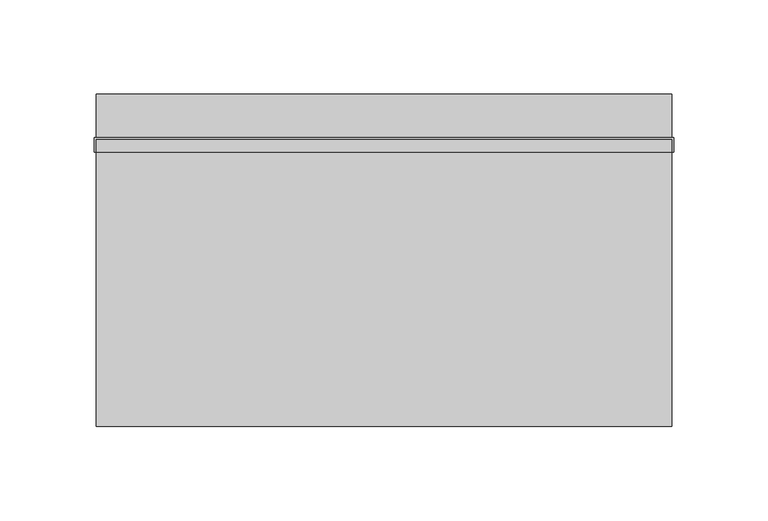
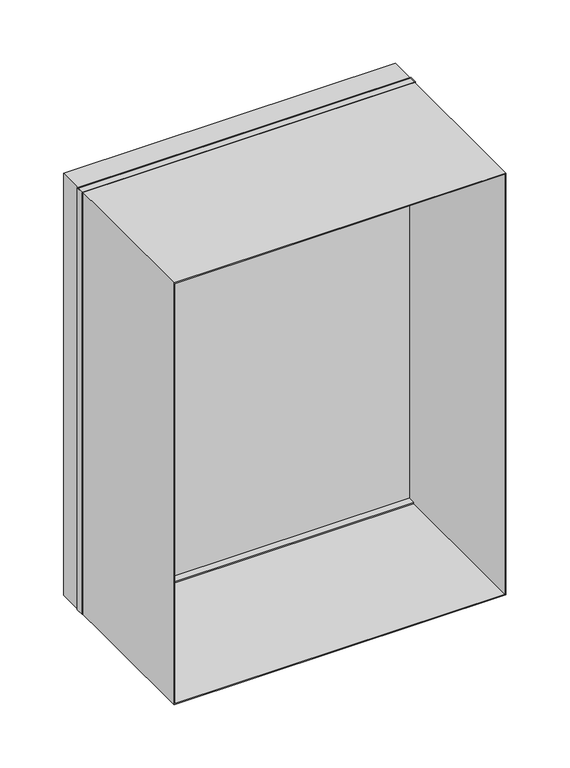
"""IFC4 building model written with IfcOpenShell, lengths in millimetres: proxy geometry, Bard_Controller_LC6000.BIM : Bard_Controller_LC6000_Cooling_Unit."""

from ifc_helpers import new_model, si_unit, frame, origin, place, context, project, spatial, polyline, outline, extrude, source, transform, mapped, element, save


def mechanical_equipment_268e0284(model_context):
    return source(origin(), model_context, "Body", "SweptSolid", [
        extrude(outline(polyline([(152.5, 153.0), (152.5, 146.4203923), (-152.5, 146.4203923), (-152.5, 153.0), (152.5, 153.0)])), frame((0.0, 0.0, 2114.2635926), z_axis=(0.0, 0.0, 1.0), x_axis=(1.0, 0.0, 0.0)), (0.0, 0.0, 1.0), 2.0489992),
        extrude(outline(polyline([(152.5, 153.0), (152.5, 146.4203923), (-152.5, 146.4203923), (-152.5, 153.0), (152.5, 153.0)])), frame((0.0, 0.0, 2520.1655941), z_axis=(0.0, 0.0, 1.0), x_axis=(1.0, 0.0, 0.0)), (0.0, 0.0, 1.0), 4.0979985),
        extrude(outline(polyline([(153.4992086, 153.8963432), (153.4992086, 146.4203923), (152.5, 146.4203923), (152.5, 153.0), (-152.5, 153.0), (-152.5, 146.4203923), (-153.3853087, 146.4203923), (-153.3853087, 153.8963432), (153.4992086, 153.8963432)])), frame((0.0, 0.0, 2114.2635926), z_axis=(0.0, 0.0, 1.0), x_axis=(1.0, 0.0, 0.0)), (0.0, 0.0, 1.0), 410.0),
        extrude(outline(polyline([(2524.2635926, -152.5), (2114.2635926, -152.5), (2114.2635926, 152.5), (2524.2635926, 152.5), (2524.2635926, -152.5)]), holes=[polyline([(2523.2635926, 151.5), (2115.2635926, 151.5), (2115.2635926, -151.5), (2523.2635926, -151.5), (2523.2635926, 151.5)])]), frame((0.0, 1.0, 0.0), z_axis=(0.0, 1.0, 0.0), x_axis=(0.0, 0.0, 1.0)), (0.0, 0.0, 1.0), 176.0),
    ])


if __name__ == "__main__":
    model = new_model("IFC4")
    model_context = context("Model", 3, world=origin())
    ifc_project = project(units=[si_unit("LENGTHUNIT", "METRE", prefix="MILLI")], contexts=[model_context])
    site = spatial("IfcSite", under=ifc_project)
    building = spatial("IfcBuilding", under=site)
    placement = place(None, origin())
    mechanical_equipment_shape = mechanical_equipment_268e0284(model_context)
    element("IfcBuildingElementProxy", 1, Name="Bard_Controller_LC6000.BIM : Bard_Controller_LC6000_Cooling_Unit", ObjectType="Bard_Controller_LC6000.BIM : Bard_Controller_LC6000_Cooling_Unit", at=placement, inside=building, context=model_context, shape_type="MappedRepresentation", body=[
        mapped(mechanical_equipment_shape, transform((0.0, 0.0, 0.0), x_axis=(1.0, 0.0, 0.0), y_axis=(0.0, 1.0, 0.0), z_axis=(0.0, 0.0, 1.0))),
    ])
    save(model, "model.ifc")
